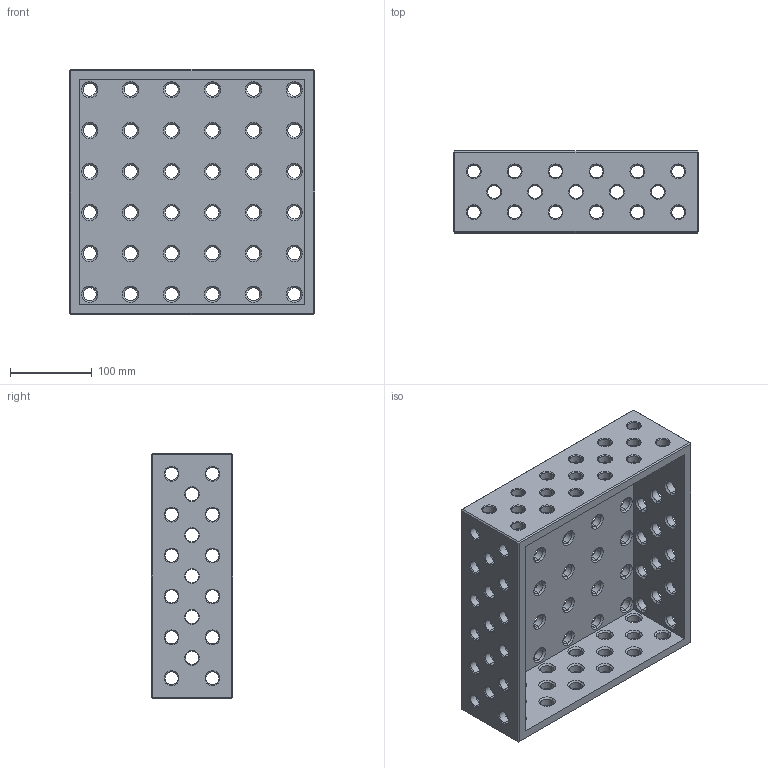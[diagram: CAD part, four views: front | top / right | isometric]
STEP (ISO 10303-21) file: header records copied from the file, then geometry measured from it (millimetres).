
FILE_DESCRIPTION (( 'STEP AP203' ), '1' );
FILE_NAME ('160280_300x300x100.step', '2014-08-11T15:30:11', ( 'User' ), ( '' ), 'SwSTEP 2.0', 'SolidWorks 2014', '' );
FILE_SCHEMA (( 'CONFIG_CONTROL_DESIGN' ));
Length unit declared in the file: millimetre
Products named in the file (1): 160280_300x300x100
Bounding box: 300 x 100 x 300 mm (x, y, z)
Volume: 2025824.6 mm3; surface area: 406933.7 mm2
Topology: 1 solids, 1 shells, 655 faces, 1516 edges, 864 vertices
Faces by surface type: cone 416, cylinder 208, plane 31
Entity records: 18915 total; most frequent: DIRECTION 3660, CARTESIAN_POINT 3036, ORIENTED_EDGE 3032, EDGE_CURVE 1516, AXIS2_PLACEMENT_3D 1488, VERTEX_POINT 864, EDGE_LOOP 864, CIRCLE 832
